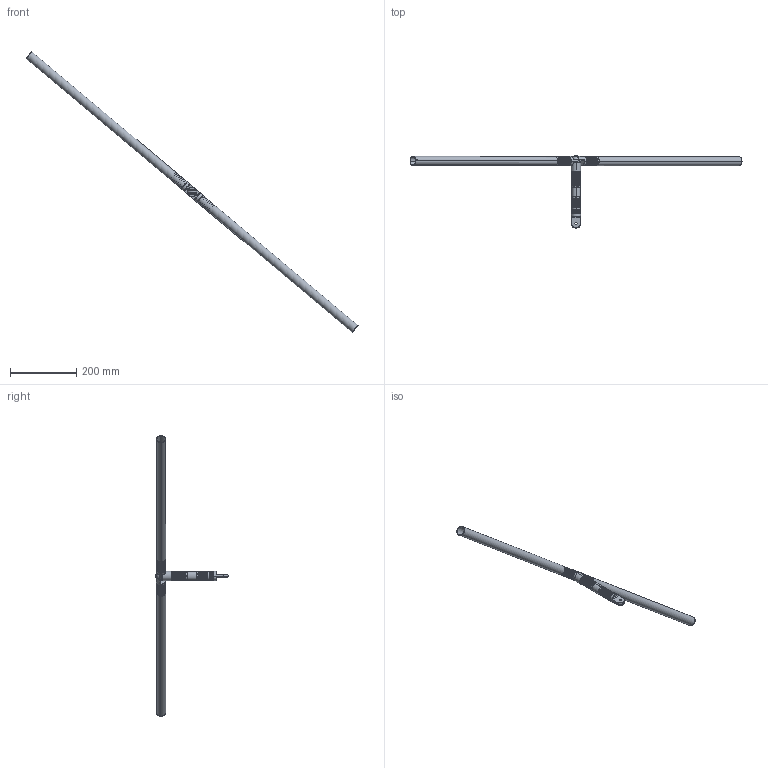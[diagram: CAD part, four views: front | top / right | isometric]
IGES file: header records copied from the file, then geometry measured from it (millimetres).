
Start section: SolidWorks IGES file using analytic representation for surfaces
Global section: file name: \\SERVER3\Design\_NEWDE~1\_DESIG~1\AAI\MODULA~1\SOLIDW~1\DEMONS~1\25DBF2~1.ASS\MODULA~1\650A7~1.TRI\TRIPLE~2\Single Sided Clevis to Male Clevis to Threaded End Connector and Male Clevis Connector.IGS; native system: SolidWorks 2013; preprocessor: SolidWorks 2013; author: tbraun; date: 130819.112201; units: inch
Bounding box: 998.91 x 218.12 x 844.4 mm (x, y, z)
Surface area: 274578.6 mm2 (no closed solid volume)
Topology: 0 solids, 0 shells, 1104 faces, 14269 edges, 14261 vertices
Faces by surface type: revolution 626, bspline 478
